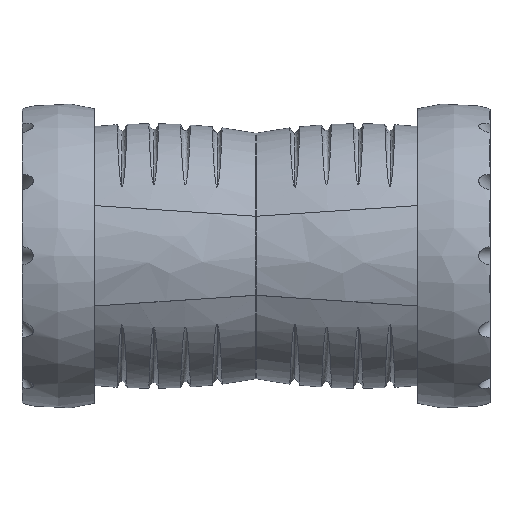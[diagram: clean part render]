
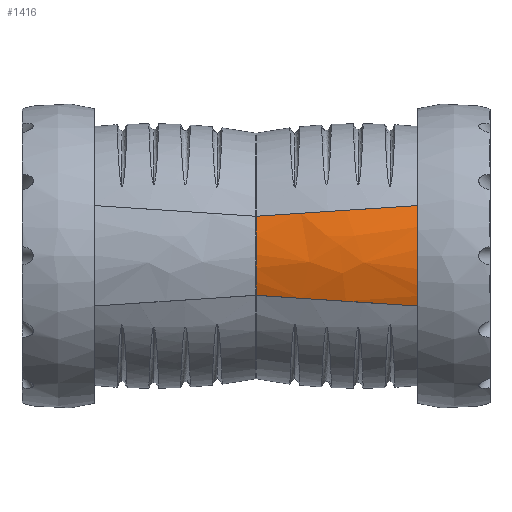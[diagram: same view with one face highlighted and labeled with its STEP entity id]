
A CAD part, top view. The second image highlights one B-rep face of the part: STEP entity #1416.
In plain terms, the highlighted free-form (B-spline) face has degree [3, 3] with [5, 4] control points.
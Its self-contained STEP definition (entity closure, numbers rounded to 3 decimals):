
#109=FACE_OUTER_BOUND('',#367,.T.);
#188=B_SPLINE_SURFACE_WITH_KNOTS('',3,3,((#2479,#2480,#2481,#2482),(#2483,
#2484,#2485,#2486),(#2487,#2488,#2489,#2490),(#2491,#2492,#2493,#2494),
(#2495,#2496,#2497,#2498)),.UNSPECIFIED.,.F.,.F.,.F.,(4,1,4),(4,4),(0.,
0.571,1.),(0.,0.569),.UNSPECIFIED.);
#200=B_SPLINE_CURVE_WITH_KNOTS('',3,(#1910,#1911,#1912,#1913,#1914,#1915),
 .UNSPECIFIED.,.F.,.F.,(4,2,4),(-1.78,-0.89,0.),
 .UNSPECIFIED.);
#225=B_SPLINE_CURVE_WITH_KNOTS('',3,(#2450,#2451,#2452,#2453),
 .UNSPECIFIED.,.F.,.F.,(4,4),(0.,0.569),.UNSPECIFIED.);
#226=B_SPLINE_CURVE_WITH_KNOTS('',3,(#2471,#2472,#2473,#2474),
 .UNSPECIFIED.,.F.,.F.,(4,4),(0.,0.569),.UNSPECIFIED.);
#228=B_SPLINE_CURVE_WITH_KNOTS('',3,(#2499,#2500,#2501,#2502,#2503),
 .UNSPECIFIED.,.F.,.F.,(4,1,4),(0.,0.571,1.),.UNSPECIFIED.);
#367=EDGE_LOOP('',(#942,#943,#944,#945));
#535=VERTEX_POINT('',#1879);
#541=VERTEX_POINT('',#1905);
#562=VERTEX_POINT('',#2445);
#563=VERTEX_POINT('',#2470);
#695=EDGE_CURVE('',#535,#541,#200,.T.);
#721=EDGE_CURVE('',#562,#541,#225,.T.);
#722=EDGE_CURVE('',#563,#535,#226,.T.);
#724=EDGE_CURVE('',#563,#562,#228,.T.);
#942=ORIENTED_EDGE('',*,*,#695,.T.);
#943=ORIENTED_EDGE('',*,*,#721,.F.);
#944=ORIENTED_EDGE('',*,*,#724,.F.);
#945=ORIENTED_EDGE('',*,*,#722,.T.);
#1416=ADVANCED_FACE('',(#109),#188,.F.);
#1879=CARTESIAN_POINT('',(0.,8.698,26.669));
#1905=CARTESIAN_POINT('',(0.,-8.698,26.669));
#1910=CARTESIAN_POINT('Ctrl Pts',(0.,8.698,
26.669));
#1911=CARTESIAN_POINT('Ctrl Pts',(0.,5.913,
27.691));
#1912=CARTESIAN_POINT('Ctrl Pts',(0.,2.967,
28.213));
#1913=CARTESIAN_POINT('Ctrl Pts',(0.,-2.967,
28.213));
#1914=CARTESIAN_POINT('Ctrl Pts',(0.,-5.913,
27.691));
#1915=CARTESIAN_POINT('Ctrl Pts',(0.,-8.698,
26.669));
#2445=CARTESIAN_POINT('',(35.6,-11.055,27.077));
#2450=CARTESIAN_POINT('Ctrl Pts',(35.6,-11.055,27.077));
#2451=CARTESIAN_POINT('Ctrl Pts',(23.788,-10.269,28.238));
#2452=CARTESIAN_POINT('Ctrl Pts',(11.827,-9.484,28.104));
#2453=CARTESIAN_POINT('Ctrl Pts',(0.,-8.698,
26.669));
#2470=CARTESIAN_POINT('',(35.6,11.055,27.077));
#2471=CARTESIAN_POINT('Ctrl Pts',(35.6,11.055,27.077));
#2472=CARTESIAN_POINT('Ctrl Pts',(23.788,10.269,28.238));
#2473=CARTESIAN_POINT('Ctrl Pts',(11.827,9.484,28.104));
#2474=CARTESIAN_POINT('Ctrl Pts',(0.,8.698,
26.669));
#2479=CARTESIAN_POINT('Ctrl Pts',(35.6,11.055,27.077));
#2480=CARTESIAN_POINT('Ctrl Pts',(23.788,10.269,28.238));
#2481=CARTESIAN_POINT('Ctrl Pts',(11.827,9.484,28.104));
#2482=CARTESIAN_POINT('Ctrl Pts',(0.,8.698,
26.669));
#2483=CARTESIAN_POINT('Ctrl Pts',(35.6,7.057,28.71));
#2484=CARTESIAN_POINT('Ctrl Pts',(23.729,6.546,29.706));
#2485=CARTESIAN_POINT('Ctrl Pts',(11.744,6.037,29.41));
#2486=CARTESIAN_POINT('Ctrl Pts',(-0.074,5.527,
27.822));
#2487=CARTESIAN_POINT('Ctrl Pts',(35.6,-0.58,29.989));
#2488=CARTESIAN_POINT('Ctrl Pts',(23.682,-0.536,30.856));
#2489=CARTESIAN_POINT('Ctrl Pts',(11.678,-0.493,30.429));
#2490=CARTESIAN_POINT('Ctrl Pts',(-0.133,-0.45,
28.721));
#2491=CARTESIAN_POINT('Ctrl Pts',(35.6,-8.056,28.302));
#2492=CARTESIAN_POINT('Ctrl Pts',(23.744,-7.477,29.34));
#2493=CARTESIAN_POINT('Ctrl Pts',(11.765,-6.899,29.083));
#2494=CARTESIAN_POINT('Ctrl Pts',(-0.056,-6.32,
27.534));
#2495=CARTESIAN_POINT('Ctrl Pts',(35.6,-11.055,27.077));
#2496=CARTESIAN_POINT('Ctrl Pts',(23.788,-10.269,28.238));
#2497=CARTESIAN_POINT('Ctrl Pts',(11.827,-9.484,28.104));
#2498=CARTESIAN_POINT('Ctrl Pts',(0.,-8.698,
26.669));
#2499=CARTESIAN_POINT('Ctrl Pts',(35.6,11.055,27.077));
#2500=CARTESIAN_POINT('Ctrl Pts',(35.6,7.057,28.71));
#2501=CARTESIAN_POINT('Ctrl Pts',(35.6,-0.58,29.989));
#2502=CARTESIAN_POINT('Ctrl Pts',(35.6,-8.056,28.302));
#2503=CARTESIAN_POINT('Ctrl Pts',(35.6,-11.055,27.077));
